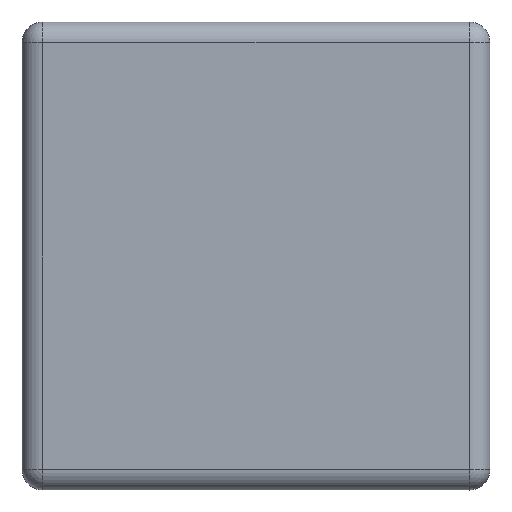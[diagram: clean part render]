
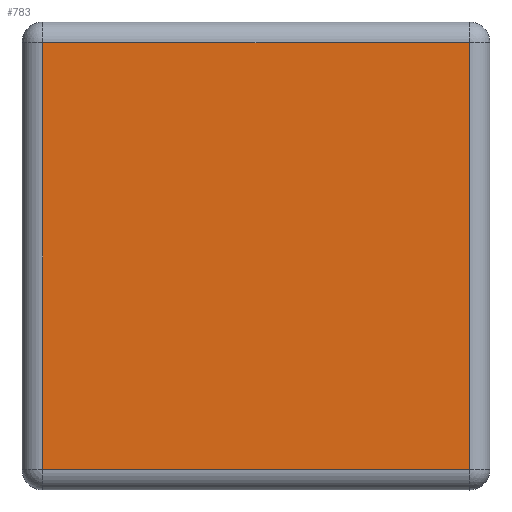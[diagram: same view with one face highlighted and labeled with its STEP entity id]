
A CAD part, front view. The second image highlights one B-rep face of the part: STEP entity #783.
In plain terms, the highlighted planar face has unit normal (0, -1, 0) as drawn and (0, 0, 1) by its records, which use the part's own axes.
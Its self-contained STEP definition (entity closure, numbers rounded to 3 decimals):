
#41 = VECTOR ( 'NONE', #1228, 1000. ) ;
#43 = CARTESIAN_POINT ( 'NONE',  ( -41., -41., 4. ) ) ;
#51 = VECTOR ( 'NONE', #202, 1000. ) ;
#62 = EDGE_CURVE ( 'NONE', #1612, #1158, #787, .T. ) ;
#68 = CARTESIAN_POINT ( 'NONE',  ( 41., 45., 4. ) ) ;
#92 = VECTOR ( 'NONE', #251, 1000. ) ;
#164 = PLANE ( 'NONE',  #1585 ) ;
#202 = DIRECTION ( 'NONE',  ( 0., 1., 0. ) ) ;
#243 = CARTESIAN_POINT ( 'NONE',  ( 41., -41., 4. ) ) ;
#251 = DIRECTION ( 'NONE',  ( 1., 0., 0. ) ) ;
#252 = EDGE_LOOP ( 'NONE', ( #976, #526, #1065, #860 ) ) ;
#272 = VECTOR ( 'NONE', #571, 1000. ) ;
#409 = DIRECTION ( 'NONE',  ( 1., 0., 0. ) ) ;
#469 = CARTESIAN_POINT ( 'NONE',  ( 45., -41., 4. ) ) ;
#526 = ORIENTED_EDGE ( 'NONE', *, *, #1504, .T. ) ;
#552 = EDGE_CURVE ( 'NONE', #1158, #1281, #1607, .T. ) ;
#571 = DIRECTION ( 'NONE',  ( -1., 0., 0. ) ) ;
#720 = FACE_OUTER_BOUND ( 'NONE', #252, .T. ) ;
#723 = EDGE_CURVE ( 'NONE', #1151, #1612, #793, .T. ) ;
#728 = CARTESIAN_POINT ( 'NONE',  ( -41., 41., 4. ) ) ;
#739 = LINE ( 'NONE', #1604, #41 ) ;
#778 = DIRECTION ( 'NONE',  ( 0., 0., 1. ) ) ;
#783 = ADVANCED_FACE ( 'NONE', ( #720 ), #164, .T. ) ;
#787 = LINE ( 'NONE', #68, #51 ) ;
#793 = LINE ( 'NONE', #469, #92 ) ;
#860 = ORIENTED_EDGE ( 'NONE', *, *, #62, .T. ) ;
#976 = ORIENTED_EDGE ( 'NONE', *, *, #552, .T. ) ;
#1065 = ORIENTED_EDGE ( 'NONE', *, *, #723, .T. ) ;
#1151 = VERTEX_POINT ( 'NONE', #43 ) ;
#1158 = VERTEX_POINT ( 'NONE', #1459 ) ;
#1228 = DIRECTION ( 'NONE',  ( 0., -1., 0. ) ) ;
#1281 = VERTEX_POINT ( 'NONE', #728 ) ;
#1292 = CARTESIAN_POINT ( 'NONE',  ( -45., 41., 4. ) ) ;
#1435 = CARTESIAN_POINT ( 'NONE',  ( 0., 0., 4. ) ) ;
#1459 = CARTESIAN_POINT ( 'NONE',  ( 41., 41., 4. ) ) ;
#1504 = EDGE_CURVE ( 'NONE', #1281, #1151, #739, .T. ) ;
#1585 = AXIS2_PLACEMENT_3D ( 'NONE', #1435, #778, #409 ) ;
#1604 = CARTESIAN_POINT ( 'NONE',  ( -41., -45., 4. ) ) ;
#1607 = LINE ( 'NONE', #1292, #272 ) ;
#1612 = VERTEX_POINT ( 'NONE', #243 ) ;
